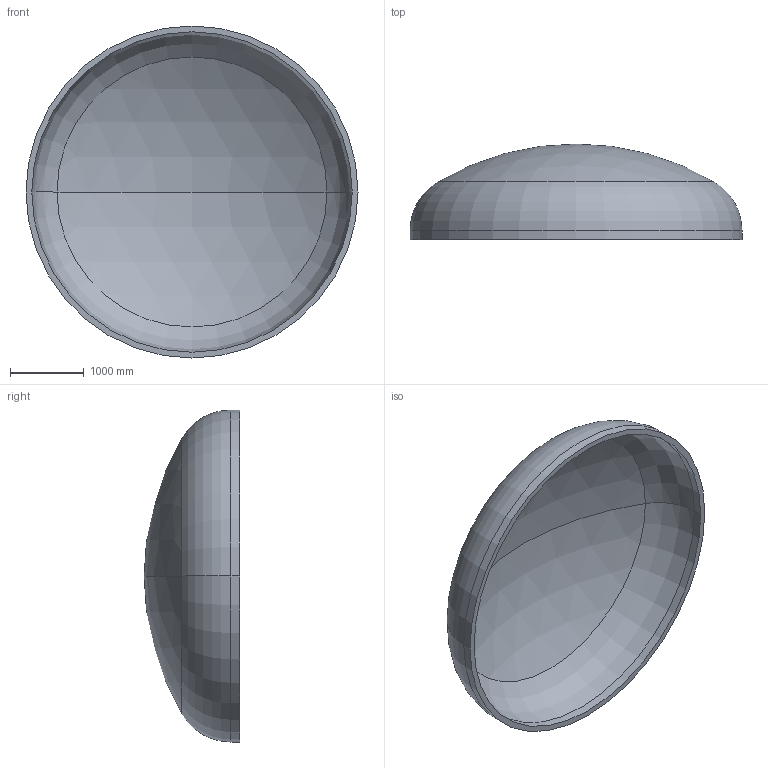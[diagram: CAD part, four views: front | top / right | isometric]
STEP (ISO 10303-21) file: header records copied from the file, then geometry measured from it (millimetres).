
FILE_DESCRIPTION (( 'STEP AP203' ), '1' );
FILE_NAME ('DIN 28013 Korbbogenform_-_Boden DIN 28013 - 4500 x 120 - I - s=78.step', '2016-07-01T23:42:44', ( '' ), ( '' ), 'SwSTEP 2.0', 'SolidWorks 2013', '' );
FILE_SCHEMA (( 'CONFIG_CONTROL_DESIGN' ));
Length unit declared in the file: millimetre
Products named in the file (1): DIN 28013 Korbbogenform_-_Boden DIN 28013 - 4500 x 120 - I - s=78
Bounding box: 4500 x 1296.5 x 4500 mm (x, y, z)
Volume: 1810284006.7 mm3; surface area: 47513849.9 mm2
Topology: 1 solids, 1 shells, 13 faces, 24 edges, 14 vertices
Faces by surface type: torus 4, cylinder 4, sphere 4, plane 1
Entity records: 407 total; most frequent: DIRECTION 72, CARTESIAN_POINT 52, ORIENTED_EDGE 48, AXIS2_PLACEMENT_3D 34, EDGE_CURVE 24, CIRCLE 20, EDGE_LOOP 14, VERTEX_POINT 14
